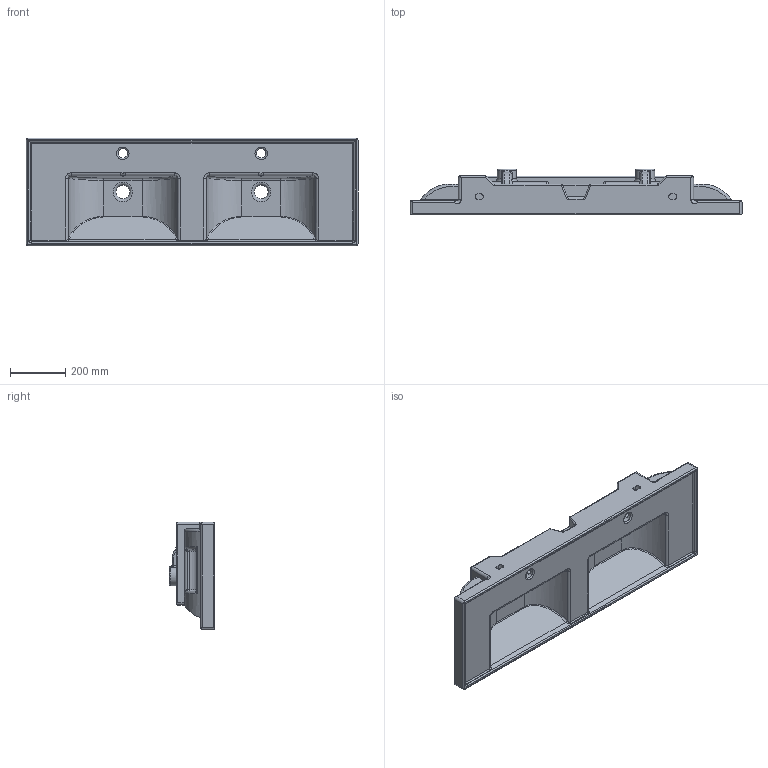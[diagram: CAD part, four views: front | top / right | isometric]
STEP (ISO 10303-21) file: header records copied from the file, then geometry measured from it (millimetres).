
FILE_DESCRIPTION( ( 'Unknown' ), '1' );
FILE_NAME( 'C:/Documents and Settings/s.pallini/Desktop/Scarabeo 17-6/Scarabeo Serie ML/ML 120x40.stp', 'Unknown', ( 'Unknown' ), ( 'Unknown' ), 'PSStep 13.0', 'Unknown', ' ' );
FILE_SCHEMA( ( 'AUTOMOTIVE_DESIGN { 1 0 10303 214 1 1 1 1 }' ) );
Length unit declared in the file: millimetre
Products named in the file (1): 1
Bounding box: 1200 x 165 x 390 mm (x, y, z)
Volume: 24600649.6 mm3; surface area: 1595865.4 mm2
Topology: 1 solids, 1 shells, 341 faces, 856 edges, 498 vertices
Faces by surface type: cylinder 158, plane 71, bspline 54, torus 50, sphere 8
Full cylindrical faces by diameter (mm): 20 x2, 35 x2, 50 x2
Entity records: 25441 total; most frequent: CARTESIAN_POINT 15007, ORIENTED_EDGE 1636, DIRECTION 1600, EDGE_CURVE 818, AXIS2_PLACEMENT_3D 632, VERTEX_POINT 490, EDGE_LOOP 364, FACE_OUTER_BOUND 353
